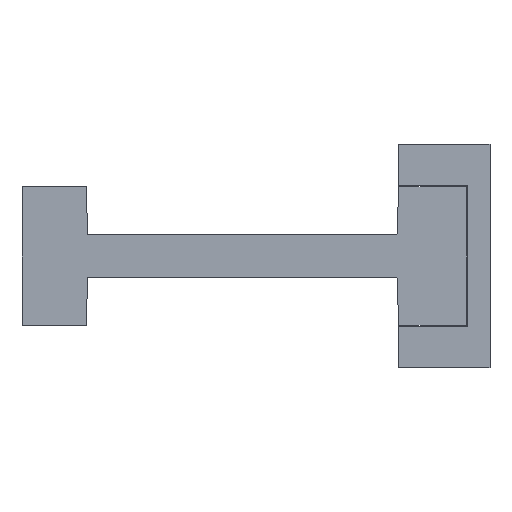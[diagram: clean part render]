
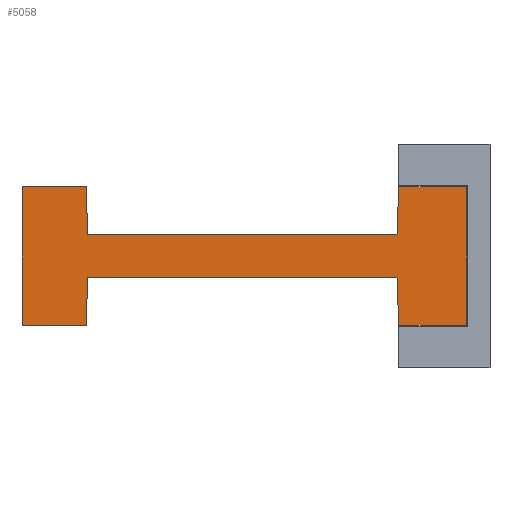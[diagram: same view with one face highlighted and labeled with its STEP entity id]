
A CAD part, left-side view. The second image highlights one B-rep face of the part: STEP entity #5058.
In plain terms, the highlighted planar face has unit normal (-1, 0, 0) as drawn and (0, 0, 1) by its records, which use the part's own axes.
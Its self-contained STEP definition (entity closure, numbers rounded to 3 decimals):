
#35 = EDGE_LOOP ( 'NONE', ( #6253, #3040, #1846, #7918, #7220, #6723, #5332, #5349, #1102, #7670, #5794, #7869 ) ) ;
#82 = LINE ( 'NONE', #5134, #3385 ) ;
#223 = VERTEX_POINT ( 'NONE', #4670 ) ;
#367 = CARTESIAN_POINT ( 'NONE',  ( -3.6, -11.9, 0. ) ) ;
#492 = VERTEX_POINT ( 'NONE', #5147 ) ;
#664 = VERTEX_POINT ( 'NONE', #2639 ) ;
#799 = DIRECTION ( 'NONE',  ( 0., -1., 0. ) ) ;
#818 = VECTOR ( 'NONE', #2927, 1000. ) ;
#846 = EDGE_CURVE ( 'NONE', #991, #492, #3357, .T. ) ;
#861 = EDGE_CURVE ( 'NONE', #492, #4733, #1567, .T. ) ;
#991 = VERTEX_POINT ( 'NONE', #2544 ) ;
#1049 = DIRECTION ( 'NONE',  ( 1., 0., 0. ) ) ;
#1050 = DIRECTION ( 'NONE',  ( -1., 0., 0. ) ) ;
#1102 = ORIENTED_EDGE ( 'NONE', *, *, #7042, .T. ) ;
#1119 = DIRECTION ( 'NONE',  ( -1., 0., 0. ) ) ;
#1193 = EDGE_CURVE ( 'NONE', #223, #991, #82, .T. ) ;
#1201 = DIRECTION ( 'NONE',  ( 0., 0., -1. ) ) ;
#1420 = DIRECTION ( 'NONE',  ( 0., -1., 0. ) ) ;
#1567 = LINE ( 'NONE', #367, #2211 ) ;
#1608 = LINE ( 'NONE', #6057, #6715 ) ;
#1610 = DIRECTION ( 'NONE',  ( 0., 1., 0. ) ) ;
#1651 = EDGE_CURVE ( 'NONE', #5955, #664, #8187, .T. ) ;
#1747 = DIRECTION ( 'NONE',  ( 0., -1., 0. ) ) ;
#1842 = PLANE ( 'NONE',  #3277 ) ;
#1846 = ORIENTED_EDGE ( 'NONE', *, *, #1193, .T. ) ;
#1906 = CARTESIAN_POINT ( 'NONE',  ( 3.6, -64.8, 0. ) ) ;
#1953 = CARTESIAN_POINT ( 'NONE',  ( 11.85, -11.6, 0. ) ) ;
#1983 = DIRECTION ( 'NONE',  ( 0.999, 0.036, 0. ) ) ;
#2092 = EDGE_CURVE ( 'NONE', #4733, #4109, #1608, .T. ) ;
#2211 = VECTOR ( 'NONE', #1747, 1000. ) ;
#2281 = VECTOR ( 'NONE', #7699, 1000. ) ;
#2413 = FACE_OUTER_BOUND ( 'NONE', #35, .T. ) ;
#2431 = CARTESIAN_POINT ( 'NONE',  ( 11.85, -76., 0. ) ) ;
#2544 = CARTESIAN_POINT ( 'NONE',  ( -11.85, -11.6, 0. ) ) ;
#2551 = LINE ( 'NONE', #1906, #2281 ) ;
#2571 = LINE ( 'NONE', #5268, #8275 ) ;
#2639 = CARTESIAN_POINT ( 'NONE',  ( 11.85, -11.6, 0. ) ) ;
#2814 = VECTOR ( 'NONE', #1049, 1000. ) ;
#2927 = DIRECTION ( 'NONE',  ( 0., 1., 0. ) ) ;
#3001 = LINE ( 'NONE', #6931, #4546 ) ;
#3040 = ORIENTED_EDGE ( 'NONE', *, *, #5469, .T. ) ;
#3277 = AXIS2_PLACEMENT_3D ( 'NONE', #6927, #1201, #1119 ) ;
#3357 = LINE ( 'NONE', #4044, #7450 ) ;
#3385 = VECTOR ( 'NONE', #1420, 1000. ) ;
#3418 = VECTOR ( 'NONE', #1050, 1000. ) ;
#3587 = LINE ( 'NONE', #4309, #3418 ) ;
#3673 = CARTESIAN_POINT ( 'NONE',  ( 11.85, -65., 0. ) ) ;
#4044 = CARTESIAN_POINT ( 'NONE',  ( -11.85, -11.6, 0. ) ) ;
#4109 = VERTEX_POINT ( 'NONE', #4155 ) ;
#4155 = CARTESIAN_POINT ( 'NONE',  ( -11.85, -65., 0. ) ) ;
#4185 = CARTESIAN_POINT ( 'NONE',  ( 11.85, 0., 0. ) ) ;
#4256 = VERTEX_POINT ( 'NONE', #4684 ) ;
#4295 = CARTESIAN_POINT ( 'NONE',  ( 3.6, -64.8, 0. ) ) ;
#4309 = CARTESIAN_POINT ( 'NONE',  ( -11.85, 0., 0. ) ) ;
#4381 = VERTEX_POINT ( 'NONE', #3673 ) ;
#4546 = VECTOR ( 'NONE', #6175, 1000. ) ;
#4670 = CARTESIAN_POINT ( 'NONE',  ( -11.85, 0., 0. ) ) ;
#4684 = CARTESIAN_POINT ( 'NONE',  ( -11.85, -76., 0. ) ) ;
#4733 = VERTEX_POINT ( 'NONE', #6131 ) ;
#5058 = ADVANCED_FACE ( 'Face1', ( #2413 ), #1842, .F. ) ;
#5134 = CARTESIAN_POINT ( 'NONE',  ( -11.85, 0., 0. ) ) ;
#5147 = CARTESIAN_POINT ( 'NONE',  ( -3.6, -11.9, 0. ) ) ;
#5268 = CARTESIAN_POINT ( 'NONE',  ( -11.85, -65., 0. ) ) ;
#5332 = ORIENTED_EDGE ( 'NONE', *, *, #5827, .T. ) ;
#5343 = CARTESIAN_POINT ( 'NONE',  ( 11.85, 0., 0. ) ) ;
#5348 = LINE ( 'NONE', #7383, #5734 ) ;
#5349 = ORIENTED_EDGE ( 'NONE', *, *, #7770, .T. ) ;
#5361 = CARTESIAN_POINT ( 'NONE',  ( 3.6, -11.9, 0. ) ) ;
#5469 = EDGE_CURVE ( 'NONE', #7723, #223, #3587, .T. ) ;
#5602 = LINE ( 'NONE', #2431, #2814 ) ;
#5734 = VECTOR ( 'NONE', #1610, 1000. ) ;
#5794 = ORIENTED_EDGE ( 'NONE', *, *, #6209, .T. ) ;
#5827 = EDGE_CURVE ( 'NONE', #4109, #4256, #2571, .T. ) ;
#5955 = VERTEX_POINT ( 'NONE', #5361 ) ;
#6038 = VERTEX_POINT ( 'NONE', #6433 ) ;
#6057 = CARTESIAN_POINT ( 'NONE',  ( -3.6, -64.8, 0. ) ) ;
#6131 = CARTESIAN_POINT ( 'NONE',  ( -3.6, -64.8, 0. ) ) ;
#6175 = DIRECTION ( 'NONE',  ( 0., 1., 0. ) ) ;
#6209 = EDGE_CURVE ( 'NONE', #7116, #5955, #5348, .T. ) ;
#6253 = ORIENTED_EDGE ( 'NONE', *, *, #7501, .T. ) ;
#6433 = CARTESIAN_POINT ( 'NONE',  ( 11.85, -76., 0. ) ) ;
#6600 = DIRECTION ( 'NONE',  ( 0.999, -0.036, 0. ) ) ;
#6715 = VECTOR ( 'NONE', #7436, 1000. ) ;
#6723 = ORIENTED_EDGE ( 'NONE', *, *, #2092, .T. ) ;
#6927 = CARTESIAN_POINT ( 'NONE',  ( 0., 0., 0. ) ) ;
#6931 = CARTESIAN_POINT ( 'NONE',  ( 11.85, -65., 0. ) ) ;
#7042 = EDGE_CURVE ( 'NONE', #6038, #4381, #3001, .T. ) ;
#7116 = VERTEX_POINT ( 'NONE', #4295 ) ;
#7220 = ORIENTED_EDGE ( 'NONE', *, *, #861, .T. ) ;
#7288 = VECTOR ( 'NONE', #1983, 1000. ) ;
#7383 = CARTESIAN_POINT ( 'NONE',  ( 3.6, -11.9, 0. ) ) ;
#7436 = DIRECTION ( 'NONE',  ( -1., -0.024, 0. ) ) ;
#7450 = VECTOR ( 'NONE', #6600, 1000. ) ;
#7501 = EDGE_CURVE ( 'Edge1', #664, #7723, #7536, .T. ) ;
#7536 = LINE ( 'NONE', #4185, #818 ) ;
#7613 = EDGE_CURVE ( 'NONE', #4381, #7116, #2551, .T. ) ;
#7670 = ORIENTED_EDGE ( 'NONE', *, *, #7613, .T. ) ;
#7699 = DIRECTION ( 'NONE',  ( -1., 0.024, 0. ) ) ;
#7723 = VERTEX_POINT ( 'NONE', #5343 ) ;
#7770 = EDGE_CURVE ( 'NONE', #4256, #6038, #5602, .T. ) ;
#7869 = ORIENTED_EDGE ( 'NONE', *, *, #1651, .T. ) ;
#7918 = ORIENTED_EDGE ( 'NONE', *, *, #846, .T. ) ;
#8187 = LINE ( 'NONE', #1953, #7288 ) ;
#8275 = VECTOR ( 'NONE', #799, 1000. ) ;
